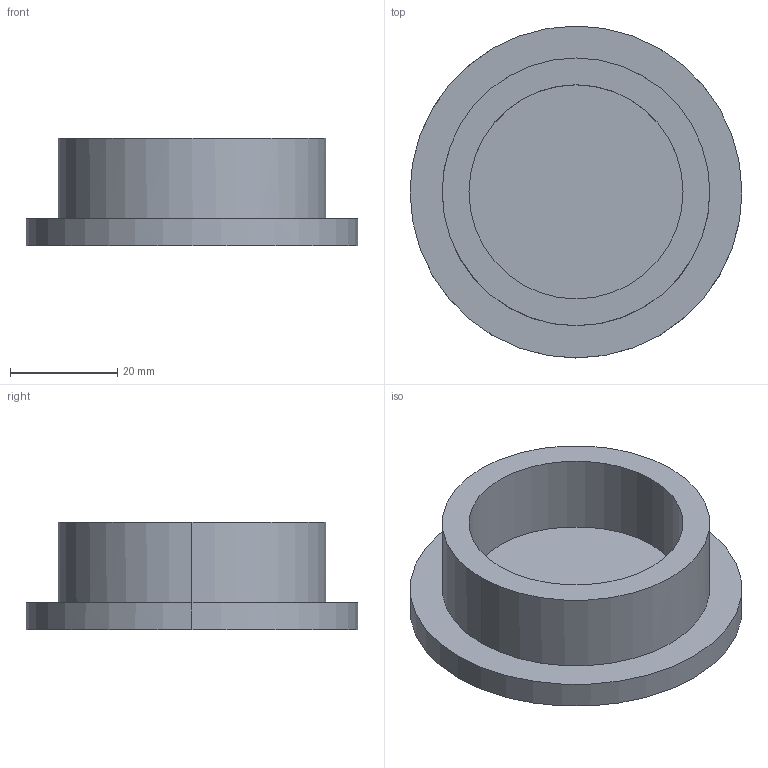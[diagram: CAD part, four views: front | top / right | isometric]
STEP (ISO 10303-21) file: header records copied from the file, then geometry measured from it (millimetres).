
FILE_DESCRIPTION(('CATIA V5 STEP Exchange'),'2;1');
FILE_NAME('D:\姚明阳\1、工装图纸\气囊线机加工零件\LS240506.stp','2024-05-30T08:23:09+00:00',('none'),('none'),'CATIA Version 5 Release 21 GA (IN-10)','CATIA V5 STEP AP214','none');
FILE_SCHEMA(('AUTOMOTIVE_DESIGN { 1 0 10303 214 1 1 1 1 }'));
Length unit declared in the file: millimetre
Products named in the file (1): Part1
Bounding box: 62 x 62 x 20 mm (x, y, z)
Volume: 25698.2 mm3; surface area: 11253.2 mm2
Topology: 1 solids, 1 shells, 10 faces, 18 edges, 12 vertices
Faces by surface type: cylinder 6, plane 4
Entity records: 292 total; most frequent: CARTESIAN_POINT 93, ORIENTED_EDGE 36, DIRECTION 26, EDGE_CURVE 18, AXIS2_PLACEMENT_3D 15, EDGE_LOOP 12, VERTEX_POINT 12, ADVANCED_FACE 10
